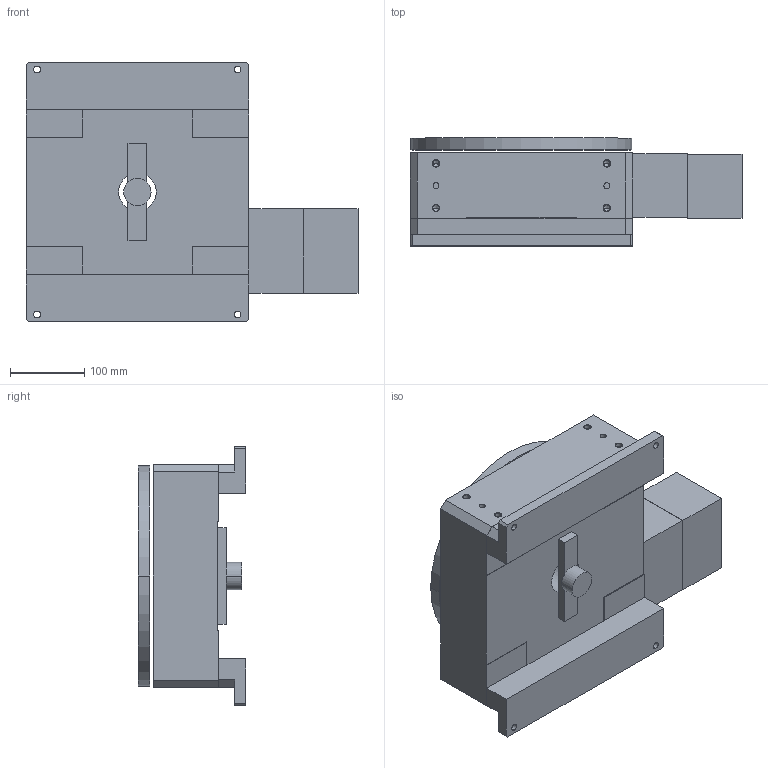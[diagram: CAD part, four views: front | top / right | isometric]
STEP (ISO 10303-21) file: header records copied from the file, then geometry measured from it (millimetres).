
FILE_DESCRIPTION((''),'2;1');
FILE_NAME('R300M9M34E1_ASM','2009-07-02T',('FK20128'),(''),'PRO/ENGINEER BY PARAMETRIC TECHNOLOGY CORPORATION, 2006200','PRO/ENGINEER BY PARAMETRIC TECHNOLOGY CORPORATION, 2006200','');
FILE_SCHEMA(('CONFIG_CONTROL_DESIGN'));
Length unit declared in the file: millimetre
Products named in the file (7): R300M; R300M-M34; R300M-ENCODER-BRKT; R300M-ENCODER-STANDOFF; RXXXM-ENCODER; R300M-E1_ASM; R300M9M34E1_ASM
Assembly tree (7 placements, depth 3):
  R300M9M34E1_ASM
    R300M
    R300M-M34
    R300M-E1_ASM
      R300M-ENCODER-BRKT
      R300M-ENCODER-STANDOFF  x2
      RXXXM-ENCODER
Bounding box: 447.05 x 145.13 x 350 mm (x, y, z)
Volume: 11123110.6 mm3; surface area: 705354.2 mm2
Topology: 7 solids, 29 shells, 285 faces, 700 edges, 464 vertices
Faces by surface type: cylinder 152, plane 111, cone 22
Entity records: 7855 total; most frequent: DIRECTION 1494, CARTESIAN_POINT 1307, ORIENTED_EDGE 1140, EDGE_CURVE 610, AXIS2_PLACEMENT_3D 603, VERTEX_POINT 416, EDGE_LOOP 344, CIRCLE 322
